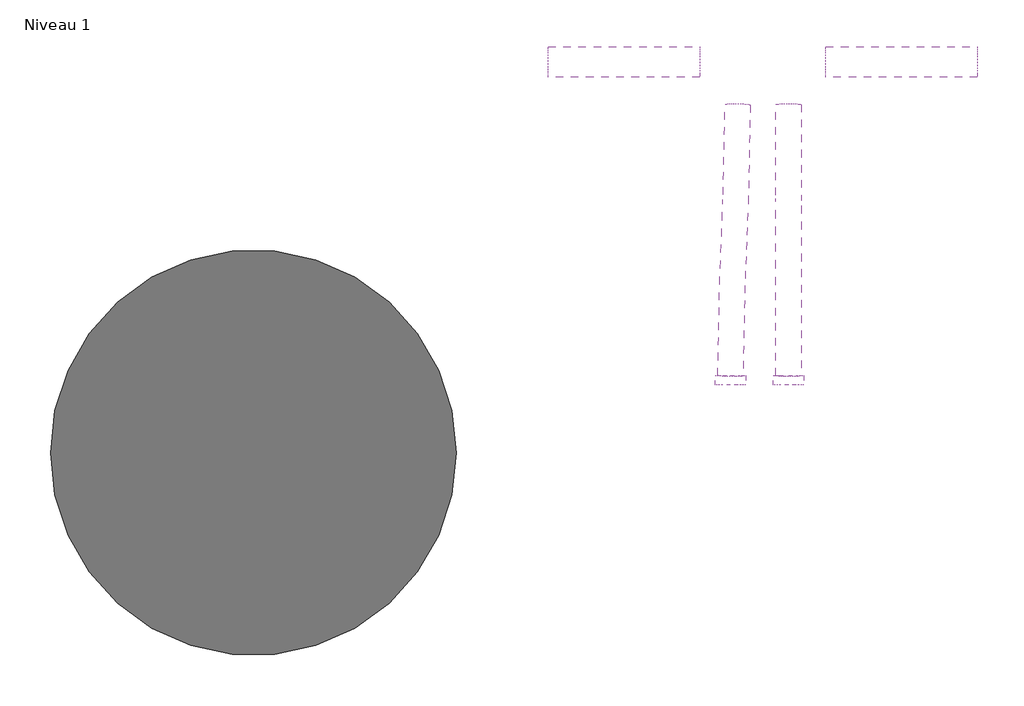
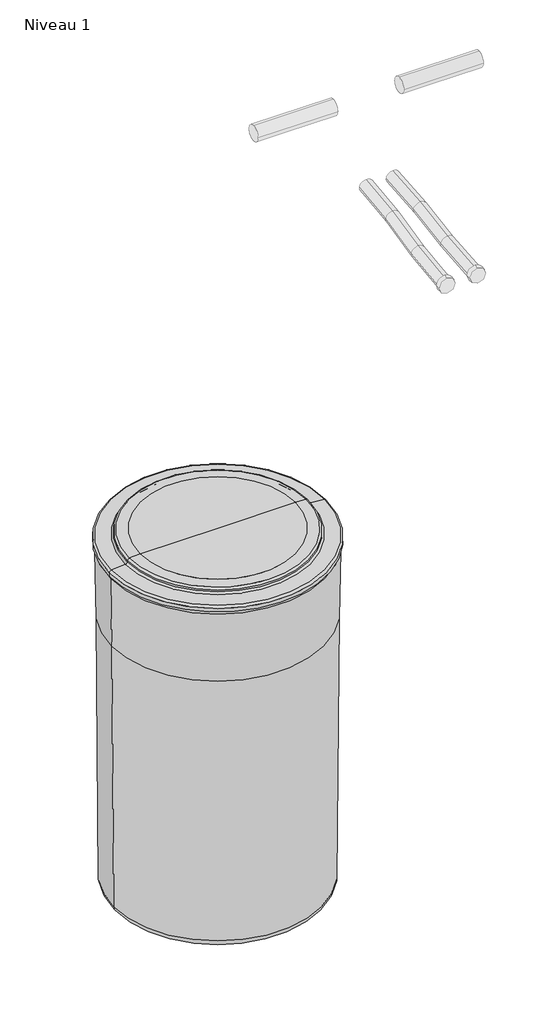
# One storey, incomplete: 6 pipe segments, 1 proxy.
"""IFC4 building model written with IfcOpenShell, lengths in millimetres."""

from ifc_helpers import new_model, si_unit, point, frame, frame_2d, origin, place, context, project, spatial, circle_curve, ellipse_curve, trimmed, segment, composite_curve, outline, extrude, transform, mapped, element, save
from ifc_brep_helpers import plane_surface, cylinder_surface, advanced_brep
from components import proxy_1400_x_820_mm_5dbdbc59

model = new_model("IFC4")

# Units and contexts
model_context = context("Model", 3, world=origin())
ifc_project = project(units=[si_unit("LENGTHUNIT", "METRE", prefix="MILLI")], contexts=[model_context])

# Site, building, storey
site = spatial("IfcSite", under=ifc_project)
building = spatial("IfcBuilding", under=site)
storey = spatial("IfcBuildingStorey", under=building, Name="Niveau 1", Elevation=0.0)

# Proxy
placement = place(None, origin())
proxy_1400_x_820_mm_shape = proxy_1400_x_820_mm_5dbdbc59(model_context)
element("IfcBuildingElementProxy", 1, Name="BWT_Bac à sel type 1 : 1400 x 820 mm", ObjectType="BWT_Bac à sel type 1 : 1400 x 820 mm", at=placement, inside=storey, context=model_context, shape_type="MappedRepresentation", body=[
    mapped(proxy_1400_x_820_mm_shape, transform((2055.5540323, -10903.8189334, 0.0), x_axis=(1.0, 0.0, 0.0), y_axis=(0.0, 1.0, 0.0), z_axis=(0.0, 0.0, 1.0))),
])

# Pipe segments
element("IfcPipeSegment", 2, ObjectType="Souple - Circulaire", at=placement, inside=storey, context=model_context, shape_type="AdvancedBrep", body=[
    advanced_brep(
    [(2974.2171922, -10750.8323719, 1953.6), (2999.2559159, -10749.2262473, 1928.6905102), (3024.2064243, -10751.8700038, 1953.6), (2999.1677006, -10753.4761284, 1978.5094898), (2977.9375928, -10571.5973623, 1968.896493), (3002.9903314, -10569.3160522, 1944.0446257), (3027.9176537, -10573.0768257, 1968.8587856), (3002.8649152, -10575.3581358, 1993.7106529), (2988.5496215, -10214.5446172, 2012.3208285), (3013.5004603, -10217.1772342, 2037.2311672), (3038.5388539, -10215.5822323, 2012.320631), (3013.5880151, -10212.9496153, 1987.4102923), (2984.8383922, -10393.337814, 1997.1425637), (3009.890917, -10391.0620265, 1972.2898213), (3034.8184531, -10394.8172774, 1997.1048564), (3009.7659284, -10397.0930649, 2021.9575988)],
    [
        (0, 1, circle_curve(frame((2999.2118082, -10751.3511879, 1953.6), z_axis=(-0.02067750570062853, -0.9961650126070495, -0.08501593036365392), x_axis=(-0.9997846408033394, 0.02075263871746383, 0.0)), 25.0)),
        (1, 2, circle_curve(frame((2999.2118082, -10751.3511879, 1953.6), z_axis=(-0.02067750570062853, -0.9961650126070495, -0.08501593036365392), x_axis=(-0.9997846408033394, 0.02075263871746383, 0.0)), 25.0)),
        (2, 3, circle_curve(frame((2999.2118082, -10751.3511879, 1953.6), z_axis=(-0.02067750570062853, -0.9961650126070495, -0.08501593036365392), x_axis=(-0.9997846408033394, 0.02075263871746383, 0.0)), 25.0)),
        (3, 0, circle_curve(frame((2999.2118082, -10751.3511879, 1953.6), z_axis=(-0.02067750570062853, -0.9961650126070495, -0.08501593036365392), x_axis=(-0.9997846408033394, 0.02075263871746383, 0.0)), 25.0)),
        (0, 4),
        (4, 5, ellipse_curve(frame((3002.9276233, -10572.337094, 1968.8776393), z_axis=(-0.029462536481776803, -0.9922413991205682, -0.1207847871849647), x_axis=(0.23666998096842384, -0.12432605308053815, 0.963602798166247)), 25.0171616, 25.0)),
        (5, 1),
        (5, 6, ellipse_curve(frame((3002.9276233, -10572.337094, 1968.8776393), z_axis=(-0.029462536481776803, -0.9922413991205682, -0.1207847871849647), x_axis=(0.23666998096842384, -0.12432605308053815, 0.963602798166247)), 25.0171616, 25.0)),
        (6, 2),
        (6, 7, ellipse_curve(frame((3002.9276233, -10572.337094, 1968.8776393), z_axis=(-0.029462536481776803, -0.9922413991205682, -0.1207847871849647), x_axis=(0.23666998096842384, -0.12432605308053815, 0.963602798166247)), 25.0171616, 25.0)),
        (7, 3),
        (7, 4, ellipse_curve(frame((3002.9276233, -10572.337094, 1968.8776393), z_axis=(-0.029462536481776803, -0.9922413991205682, -0.1207847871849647), x_axis=(0.23666998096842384, -0.12432605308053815, 0.963602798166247)), 25.0171616, 25.0)),
        (8, 9, circle_curve(frame((3013.5442377, -10215.0634248, 2012.3207297), z_axis=(0.02067828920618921, 0.9962029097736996, 0.08457050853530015), x_axis=(-0.9997846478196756, 0.020752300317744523, 3.950910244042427e-06)), 25.0)),
        (9, 10, circle_curve(frame((3013.5442377, -10215.0634248, 2012.3207297), z_axis=(0.02067828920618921, 0.9962029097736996, 0.08457050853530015), x_axis=(-0.9997846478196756, 0.020752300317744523, 3.950910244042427e-06)), 25.0)),
        (10, 11, circle_curve(frame((3013.5442377, -10215.0634248, 2012.3207297), z_axis=(0.02067828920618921, 0.9962029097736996, 0.08457050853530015), x_axis=(-0.9997846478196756, 0.020752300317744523, 3.950910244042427e-06)), 25.0)),
        (11, 8, circle_curve(frame((3013.5442377, -10215.0634248, 2012.3207297), z_axis=(0.02067828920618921, 0.9962029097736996, 0.08457050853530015), x_axis=(-0.9997846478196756, 0.020752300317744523, 3.950910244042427e-06)), 25.0)),
        (4, 12),
        (12, 13, ellipse_curve(frame((3009.8284227, -10394.0775457, 1997.12371), z_axis=(-0.029463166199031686, -0.992268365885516, -0.12056289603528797), x_axis=(-0.23528136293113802, 0.12411079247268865, -0.9639705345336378)), 25.0173634, 25.0)),
        (13, 5),
        (13, 14, ellipse_curve(frame((3009.8284227, -10394.0775457, 1997.12371), z_axis=(-0.029463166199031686, -0.992268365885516, -0.12056289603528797), x_axis=(-0.23528136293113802, 0.12411079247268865, -0.9639705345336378)), 25.0173634, 25.0)),
        (14, 6),
        (14, 15, ellipse_curve(frame((3009.8284227, -10394.0775457, 1997.12371), z_axis=(-0.029463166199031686, -0.992268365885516, -0.12056289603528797), x_axis=(-0.23528136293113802, 0.12411079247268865, -0.9639705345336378)), 25.0173634, 25.0)),
        (15, 7),
        (15, 12, ellipse_curve(frame((3009.8284227, -10394.0775457, 1997.12371), z_axis=(-0.029463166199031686, -0.992268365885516, -0.12056289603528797), x_axis=(-0.23528136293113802, 0.12411079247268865, -0.9639705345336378)), 25.0173634, 25.0)),
        (12, 8),
        (11, 13),
        (10, 14),
        (9, 15),
    ],
    [
        plane_surface(frame((2999.2118082, -10753.4770406, 1978.509451), z_axis=(-0.02067750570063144, -0.9961650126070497, -0.08501593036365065), x_axis=(0.9997861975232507, -0.020602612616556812, -0.0017582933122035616))),
        cylinder_surface(frame((2999.2118082, -10751.3511879, 1953.6), z_axis=(-0.02067750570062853, -0.9961650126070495, -0.08501593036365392), x_axis=(-0.9997846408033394, 0.02075263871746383, 0.0)), 25.0),
        plane_surface(frame((3013.5442377, -10217.1781396, 2037.2311288), z_axis=(0.020678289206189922, 0.9962029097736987, 0.08457050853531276), x_axis=(0.9997861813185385, -0.020604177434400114, -0.0017491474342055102))),
        cylinder_surface(frame((3002.9276233, -10572.337094, 1968.8776393), z_axis=(-0.03820714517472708, -0.9869564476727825, -0.15638792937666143), x_axis=(-0.999262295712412, 0.03834421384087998, 0.00214140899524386)), 25.0),
        cylinder_surface(frame((3009.8284227, -10394.0775457, 1997.12371), z_axis=(-0.020678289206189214, -0.9962029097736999, -0.08457050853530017), x_axis=(-0.9997846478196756, 0.020752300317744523, 3.950910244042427e-06)), 25.0),
    ],
    [
        (0, [[1, 2, 3, 4]]),
        (1, [[-1, 5, 6, 7]]),
        (1, [[-2, -7, 8, 9]]),
        (1, [[-3, -9, 10, 11]]),
        (1, [[-4, -11, 12, -5]]),
        (2, [[13, 14, 15, 16]]),
        (3, [[-6, 17, 18, 19]]),
        (3, [[-8, -19, 20, 21]]),
        (3, [[-10, -21, 22, 23]]),
        (3, [[-12, -23, 24, -17]]),
        (4, [[-18, 25, -16, 26]]),
        (4, [[-20, -26, -15, 27]]),
        (4, [[-22, -27, -14, 28]]),
        (4, [[-24, -28, -13, -25]]),
    ],
),
])
element("IfcPipeSegment", 3, ObjectType="Souple - Circulaire", at=placement, inside=storey, context=model_context, shape_type="AdvancedBrep", body=[
    advanced_brep(
    [(3089.2118086, -10751.3555809, 1953.6), (3114.2114346, -10749.2251715, 1928.6905629), (3139.2118079, -10751.3467948, 1953.6), (3114.2121818, -10753.4772042, 1978.5094371), (3089.1803545, -10572.3574572, 1968.8774606), (3114.1798226, -10569.3282946, 1944.044732), (3139.1803531, -10572.3449284, 1968.87778), (3114.180885, -10575.374091, 1993.7105087), (3089.0904843, -10215.0678178, 2012.3207289), (3114.0908547, -10217.1783062, 2037.2311146), (3139.0904835, -10215.0590317, 2012.3207306), (3114.0901131, -10212.9485433, 1987.4103448), (3089.1219391, -10394.0697113, 1997.1235409), (3114.121409, -10391.0460746, 1972.2899368), (3139.1219376, -10394.0571825, 1997.1238603), (3114.1224677, -10397.0808192, 2021.9574644)],
    [
        (0, 1, circle_curve(frame((3114.2118082, -10751.3511879, 1953.6), z_axis=(0.00017508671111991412, -0.9963774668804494, -0.08504065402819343), x_axis=(-0.9999999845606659, -0.00017572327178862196, 0.0)), 25.0)),
        (1, 2, circle_curve(frame((3114.2118082, -10751.3511879, 1953.6), z_axis=(0.00017508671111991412, -0.9963774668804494, -0.08504065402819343), x_axis=(-0.9999999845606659, -0.00017572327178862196, 0.0)), 25.0)),
        (2, 3, circle_curve(frame((3114.2118082, -10751.3511879, 1953.6), z_axis=(0.00017508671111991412, -0.9963774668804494, -0.08504065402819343), x_axis=(-0.9999999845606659, -0.00017572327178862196, 0.0)), 25.0)),
        (3, 0, circle_curve(frame((3114.2118082, -10751.3511879, 1953.6), z_axis=(0.00017508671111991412, -0.9963774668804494, -0.08504065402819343), x_axis=(-0.9999999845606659, -0.00017572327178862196, 0.0)), 25.0)),
        (0, 4),
        (4, 5, ellipse_curve(frame((3114.1803538, -10572.3511928, 1968.8776203), z_axis=(0.00024951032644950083, -0.992672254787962, -0.120837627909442), x_axis=(-0.0020638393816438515, -0.12083788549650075, 0.9926701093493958)), 25.0162, 25.0)),
        (5, 1),
        (5, 6, ellipse_curve(frame((3114.1803538, -10572.3511928, 1968.8776203), z_axis=(0.00024951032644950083, -0.992672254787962, -0.120837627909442), x_axis=(-0.0020638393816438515, -0.12083788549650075, 0.9926701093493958)), 25.0162, 25.0)),
        (6, 2),
        (6, 7, ellipse_curve(frame((3114.1803538, -10572.3511928, 1968.8776203), z_axis=(0.00024951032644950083, -0.992672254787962, -0.120837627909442), x_axis=(-0.0020638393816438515, -0.12083788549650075, 0.9926701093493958)), 25.0162, 25.0)),
        (7, 3),
        (7, 4, ellipse_curve(frame((3114.1803538, -10572.3511928, 1968.8776203), z_axis=(0.00024951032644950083, -0.992672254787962, -0.120837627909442), x_axis=(-0.0020638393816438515, -0.12083788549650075, 0.9926701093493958)), 25.0162, 25.0)),
        (8, 9, circle_curve(frame((3114.0904839, -10215.0634248, 2012.3207297), z_axis=(-0.00017509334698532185, 0.9964153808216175, 0.08459526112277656), x_axis=(-0.999999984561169, -0.00017572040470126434, -3.3457116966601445e-08)), 25.0)),
        (9, 10, circle_curve(frame((3114.0904839, -10215.0634248, 2012.3207297), z_axis=(-0.00017509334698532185, 0.9964153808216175, 0.08459526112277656), x_axis=(-0.999999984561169, -0.00017572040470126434, -3.3457116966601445e-08)), 25.0)),
        (10, 11, circle_curve(frame((3114.0904839, -10215.0634248, 2012.3207297), z_axis=(-0.00017509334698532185, 0.9964153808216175, 0.08459526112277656), x_axis=(-0.999999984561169, -0.00017572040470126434, -3.3457116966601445e-08)), 25.0)),
        (11, 8, circle_curve(frame((3114.0904839, -10215.0634248, 2012.3207297), z_axis=(-0.00017509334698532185, 0.9964153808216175, 0.08459526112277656), x_axis=(-0.999999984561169, -0.00017572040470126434, -3.3457116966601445e-08)), 25.0)),
        (4, 12),
        (12, 13, ellipse_curve(frame((3114.1219383, -10394.0634469, 1997.1237006), z_axis=(0.00024951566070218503, -0.9926992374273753, -0.12061576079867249), x_axis=(0.002051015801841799, 0.12061601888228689, -0.9926971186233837)), 25.0164019, 25.0)),
        (13, 5),
        (13, 14, ellipse_curve(frame((3114.1219383, -10394.0634469, 1997.1237006), z_axis=(0.00024951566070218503, -0.9926992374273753, -0.12061576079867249), x_axis=(0.002051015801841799, 0.12061601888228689, -0.9926971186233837)), 25.0164019, 25.0)),
        (14, 6),
        (14, 15, ellipse_curve(frame((3114.1219383, -10394.0634469, 1997.1237006), z_axis=(0.00024951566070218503, -0.9926992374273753, -0.12061576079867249), x_axis=(0.002051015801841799, 0.12061601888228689, -0.9926971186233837)), 25.0164019, 25.0)),
        (15, 7),
        (15, 12, ellipse_curve(frame((3114.1219383, -10394.0634469, 1997.1237006), z_axis=(0.00024951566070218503, -0.9926992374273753, -0.12061576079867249), x_axis=(0.002051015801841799, 0.12061601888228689, -0.9926971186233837)), 25.0164019, 25.0)),
        (12, 8),
        (11, 13),
        (10, 14),
        (9, 15),
    ],
    [
        plane_surface(frame((3114.2118082, -10753.4772042, 1978.5094371), z_axis=(0.00017508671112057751, -0.9963774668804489, -0.08504065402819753), x_axis=(0.9999999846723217, 0.00017445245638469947, 1.488948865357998e-05))),
        cylinder_surface(frame((3114.2118082, -10751.3511879, 1953.6), z_axis=(0.00017508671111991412, -0.9963774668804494, -0.08504065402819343), x_axis=(-0.9999999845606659, -0.00017572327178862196, 0.0)), 25.0),
        plane_surface(frame((3114.0904839, -10217.1783063, 2037.2311146), z_axis=(-0.00017509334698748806, 0.9964153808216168, 0.08459526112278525), x_axis=(0.9999999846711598, 0.0001744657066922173, 1.4812067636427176e-05))),
        cylinder_surface(frame((3114.1803538, -10572.3511928, 1968.8776203), z_axis=(0.0003236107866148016, -0.987681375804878, -0.1564780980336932), x_axis=(-0.9999999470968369, -0.000324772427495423, -1.81436988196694e-05)), 25.0),
        cylinder_surface(frame((3114.1219383, -10394.0634469, 1997.1237006), z_axis=(0.00017509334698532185, -0.9964153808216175, -0.08459526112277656), x_axis=(-0.999999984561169, -0.00017572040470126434, -3.3457116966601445e-08)), 25.0),
    ],
    [
        (0, [[1, 2, 3, 4]]),
        (1, [[-1, 5, 6, 7]]),
        (1, [[-2, -7, 8, 9]]),
        (1, [[-3, -9, 10, 11]]),
        (1, [[-4, -11, 12, -5]]),
        (2, [[13, 14, 15, 16]]),
        (3, [[-6, 17, 18, 19]]),
        (3, [[-8, -19, 20, 21]]),
        (3, [[-10, -21, 22, 23]]),
        (3, [[-12, -23, 24, -17]]),
        (4, [[-18, 25, -16, 26]]),
        (4, [[-20, -26, -15, 27]]),
        (4, [[-22, -27, -14, 28]]),
        (4, [[-24, -28, -13, -25]]),
    ],
),
])
element("IfcPipeSegment", 4, ObjectType="Standard", at=placement, inside=storey, context=model_context, shape_type="SweptSolid", body=[
    extrude(outline(composite_curve([segment(trimmed(circle_curve(frame_2d((0.0, 30.1625)), 30.1625), [point((0.0, 60.325))], [point((30.1625, 30.1625))], False, "CARTESIAN"), True, "CONTINUOUS"), segment(trimmed(circle_curve(frame_2d((0.0, 30.1625)), 30.1625), [point((30.1625, 30.1625))], [point((0.0, 0.0))], False, "CARTESIAN"), True, "CONTINUOUS"), segment(trimmed(circle_curve(frame_2d((0.0, 30.1625)), 30.1625), [point((0.0, 0.0))], [point((-30.1625, 30.1625))], False, "CARTESIAN"), True, "CONTINUOUS"), segment(trimmed(circle_curve(frame_2d((0.0, 30.1625)), 30.1625), [point((-30.1625, 30.1625))], [point((0.0, 60.325))], False, "CARTESIAN"), True, "CONTINUOUS")], self_intersect=False)), frame((3084.0493082, -10769.8179633, 1953.5875862), z_axis=(0.0, 0.9999997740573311, 0.0006722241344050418), x_axis=(0.0, -0.0006722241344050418, 0.9999997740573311)), (0.0, 0.0, 1.0), 18.4667796),
])
element("IfcPipeSegment", 5, ObjectType="Standard", at=placement, inside=storey, context=model_context, shape_type="SweptSolid", body=[
    extrude(outline(composite_curve([segment(trimmed(circle_curve(frame_2d((0.0, 30.1625)), 30.1625), [point((0.0, 60.325))], [point((30.1625, 30.1625))], False, "CARTESIAN"), True, "CONTINUOUS"), segment(trimmed(circle_curve(frame_2d((0.0, 30.1625)), 30.1625), [point((30.1625, 30.1625))], [point((0.0, 0.0))], False, "CARTESIAN"), True, "CONTINUOUS"), segment(trimmed(circle_curve(frame_2d((0.0, 30.1625)), 30.1625), [point((0.0, 0.0))], [point((-30.1625, 30.1625))], False, "CARTESIAN"), True, "CONTINUOUS"), segment(trimmed(circle_curve(frame_2d((0.0, 30.1625)), 30.1625), [point((-30.1625, 30.1625))], [point((0.0, 60.325))], False, "CARTESIAN"), True, "CONTINUOUS")], self_intersect=False)), frame((2969.0493082, -10769.8179633, 1953.5875862), z_axis=(0.0, 0.9999997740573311, 0.0006722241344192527), x_axis=(0.0, -0.0006722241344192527, 0.9999997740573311)), (0.0, 0.0, 1.0), 18.4667796),
])
element("IfcPipeSegment", 6, ObjectType="Standard", at=placement, inside=storey, context=model_context, shape_type="SweptSolid", body=[
    extrude(outline(composite_curve([segment(trimmed(circle_curve(frame_2d((-10130.1692691, 2300.0)), 30.1625), [point((-10160.3317691, 2300.0))], [point((-10130.1692691, 2330.1625))], False, "CARTESIAN"), True, "CONTINUOUS"), segment(trimmed(circle_curve(frame_2d((-10130.1692691, 2300.0)), 30.1625), [point((-10130.1692691, 2330.1625))], [point((-10100.0067691, 2300.0))], False, "CARTESIAN"), True, "CONTINUOUS"), segment(trimmed(circle_curve(frame_2d((-10130.1692691, 2300.0)), 30.1625), [point((-10100.0067691, 2300.0))], [point((-10130.1692691, 2269.8375))], False, "CARTESIAN"), True, "CONTINUOUS"), segment(trimmed(circle_curve(frame_2d((-10130.1692691, 2300.0)), 30.1625), [point((-10130.1692691, 2269.8375))], [point((-10160.3317691, 2300.0))], False, "CARTESIAN"), True, "CONTINUOUS")], self_intersect=False)), frame((3187.9070524, 0.0, 0.0), z_axis=(1.0, 0.0, 0.0), x_axis=(0.0, 1.0, 0.0)), (0.0, 0.0, 1.0), 300.0),
])
element("IfcPipeSegment", 7, ObjectType="Standard", at=placement, inside=storey, context=model_context, shape_type="SweptSolid", body=[
    extrude(outline(composite_curve([segment(trimmed(circle_curve(frame_2d((-10130.1692691, 2300.0)), 30.1625), [point((-10100.0067691, 2300.0))], [point((-10130.1692691, 2269.8375))], False, "CARTESIAN"), True, "CONTINUOUS"), segment(trimmed(circle_curve(frame_2d((-10130.1692691, 2300.0)), 30.1625), [point((-10130.1692691, 2269.8375))], [point((-10160.3317691, 2300.0))], False, "CARTESIAN"), True, "CONTINUOUS"), segment(trimmed(circle_curve(frame_2d((-10130.1692691, 2300.0)), 30.1625), [point((-10160.3317691, 2300.0))], [point((-10130.1692691, 2330.1625))], False, "CARTESIAN"), True, "CONTINUOUS"), segment(trimmed(circle_curve(frame_2d((-10130.1692691, 2300.0)), 30.1625), [point((-10130.1692691, 2330.1625))], [point((-10100.0067691, 2300.0))], False, "CARTESIAN"), True, "CONTINUOUS")], self_intersect=False)), frame((2638.5442377, 0.0, 0.0), z_axis=(1.0, 0.0, 0.0), x_axis=(0.0, 1.0, 0.0)), (0.0, 0.0, 1.0), 300.0),
])

save(model, "model.ifc")
